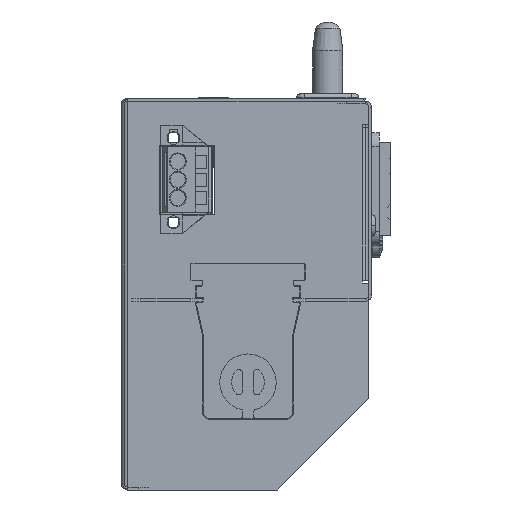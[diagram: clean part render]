
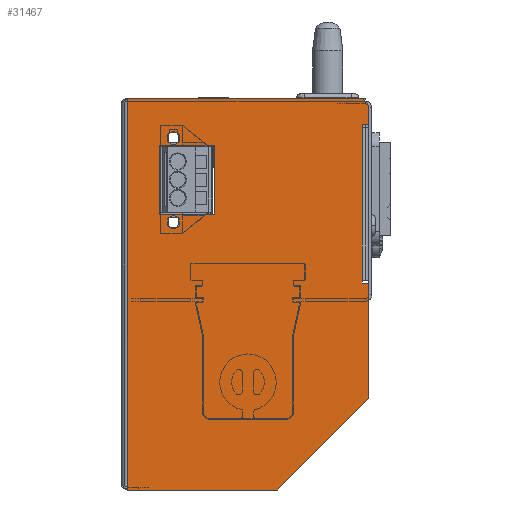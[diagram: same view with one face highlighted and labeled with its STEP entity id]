
A CAD part, left-side view. The second image highlights one B-rep face of the part: STEP entity #31467.
In plain terms, the highlighted planar face has unit normal (-1, 0, 0).
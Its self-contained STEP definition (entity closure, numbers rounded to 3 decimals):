
#29037=CARTESIAN_POINT('',(-305.55,33.,-51.8));
#29055=CARTESIAN_POINT('',(-305.55,33.,55.8));
#29057=DIRECTION('',(0.,0.,-1.));
#29058=VECTOR('',#29057,107.6);
#29059=CARTESIAN_POINT('',(-305.55,33.,55.8));
#29060=LINE('',#29059,#29058);
#29230=CARTESIAN_POINT('',(-305.55,-30.2,52.8));
#29231=DIRECTION('',(1.,0.,0.));
#29232=DIRECTION('',(0.,0.,1.));
#29233=AXIS2_PLACEMENT_3D('',#29230,#29231,#29232);
#29235=DIRECTION('',(0.,0.,-1.));
#29236=VECTOR('',#29235,4.2);
#29237=CARTESIAN_POINT('',(-305.55,-33.2,52.8));
#29238=LINE('',#29237,#29236);
#29239=DIRECTION('',(0.,1.,0.));
#29240=VECTOR('',#29239,1.8);
#29241=CARTESIAN_POINT('',(-305.55,-33.2,48.6));
#29242=LINE('',#29241,#29240);
#29243=DIRECTION('',(0.,0.,-1.));
#29244=VECTOR('',#29243,0.8);
#29245=CARTESIAN_POINT('',(-305.55,-31.4,5.8));
#29246=LINE('',#29245,#29244);
#29247=DIRECTION('',(0.,0.,-1.));
#29248=VECTOR('',#29247,31.8);
#29249=CARTESIAN_POINT('',(-305.55,-33.2,5.));
#29250=LINE('',#29249,#29248);
#29251=DIRECTION('',(0.,0.707,-0.707));
#29252=VECTOR('',#29251,35.355);
#29253=CARTESIAN_POINT('',(-305.55,-33.2,-26.8));
#29254=LINE('',#29253,#29252);
#29255=DIRECTION('',(0.,1.,0.));
#29256=VECTOR('',#29255,41.2);
#29257=CARTESIAN_POINT('',(-305.55,-8.2,-51.8));
#29258=LINE('',#29257,#29256);
#29259=DIRECTION('',(0.,-1.,0.));
#29260=VECTOR('',#29259,63.2);
#29261=CARTESIAN_POINT('',(-305.55,33.,55.8));
#29262=LINE('',#29261,#29260);
#29263=DIRECTION('',(0.,-1.,0.));
#29264=VECTOR('',#29263,15.);
#29265=CARTESIAN_POINT('',(-305.55,24.3,23.8));
#29266=LINE('',#29265,#29264);
#29267=DIRECTION('',(0.,0.,1.));
#29268=VECTOR('',#29267,19.);
#29269=CARTESIAN_POINT('',(-305.55,9.3,23.8));
#29270=LINE('',#29269,#29268);
#29271=DIRECTION('',(0.,1.,0.));
#29272=VECTOR('',#29271,15.);
#29273=CARTESIAN_POINT('',(-305.55,9.3,42.8));
#29274=LINE('',#29273,#29272);
#29275=DIRECTION('',(0.,0.,-1.));
#29276=VECTOR('',#29275,19.);
#29277=CARTESIAN_POINT('',(-305.55,24.3,42.8));
#29278=LINE('',#29277,#29276);
#29279=CARTESIAN_POINT('',(-305.55,20.45,21.755));
#29280=DIRECTION('',(-1.,0.,0.));
#29281=DIRECTION('',(0.,-1.,0.));
#29282=AXIS2_PLACEMENT_3D('',#29279,#29280,#29281);
#29284=CARTESIAN_POINT('',(-305.55,20.45,21.755));
#29285=DIRECTION('',(-1.,0.,0.));
#29286=DIRECTION('',(0.,1.,0.));
#29287=AXIS2_PLACEMENT_3D('',#29284,#29285,#29286);
#29289=CARTESIAN_POINT('',(-305.55,20.45,44.845));
#29290=DIRECTION('',(-1.,0.,0.));
#29291=DIRECTION('',(0.,-1.,0.));
#29292=AXIS2_PLACEMENT_3D('',#29289,#29290,#29291);
#29294=CARTESIAN_POINT('',(-305.55,20.45,44.845));
#29295=DIRECTION('',(-1.,0.,0.));
#29296=DIRECTION('',(0.,1.,0.));
#29297=AXIS2_PLACEMENT_3D('',#29294,#29295,#29296);
#29299=DIRECTION('',(0.,0.,1.));
#29300=VECTOR('',#29299,0.8);
#29301=CARTESIAN_POINT('',(-305.55,-31.4,47.8));
#29302=LINE('',#29301,#29300);
#29355=DIRECTION('',(0.,1.,0.));
#29356=VECTOR('',#29355,1.8);
#29357=CARTESIAN_POINT('',(-305.55,-33.2,5.));
#29358=LINE('',#29357,#29356);
#29375=DIRECTION('',(0.,0.,1.));
#29376=VECTOR('',#29375,42.);
#29377=CARTESIAN_POINT('',(-305.55,-31.4,5.8));
#29378=LINE('',#29377,#29376);
#30225=VERTEX_POINT('',#29037);
#30228=VERTEX_POINT('',#29055);
#30284=CARTESIAN_POINT('',(-305.55,-33.2,52.8));
#30285=VERTEX_POINT('',#30284);
#30286=CARTESIAN_POINT('',(-305.55,-30.2,55.8));
#30287=VERTEX_POINT('',#30286);
#30288=CARTESIAN_POINT('',(-305.55,-33.2,48.6));
#30289=VERTEX_POINT('',#30288);
#30290=CARTESIAN_POINT('',(-305.55,-31.4,48.6));
#30291=VERTEX_POINT('',#30290);
#30292=CARTESIAN_POINT('',(-305.55,-31.4,47.8));
#30293=VERTEX_POINT('',#30292);
#30294=CARTESIAN_POINT('',(-305.55,-31.4,5.8));
#30295=VERTEX_POINT('',#30294);
#30296=CARTESIAN_POINT('',(-305.55,-31.4,5.));
#30297=VERTEX_POINT('',#30296);
#30298=CARTESIAN_POINT('',(-305.55,-33.2,5.));
#30299=VERTEX_POINT('',#30298);
#30300=CARTESIAN_POINT('',(-305.55,-33.2,-26.8));
#30301=VERTEX_POINT('',#30300);
#30302=CARTESIAN_POINT('',(-305.55,-8.2,-51.8));
#30303=VERTEX_POINT('',#30302);
#30304=CARTESIAN_POINT('',(-305.55,24.3,23.8));
#30305=CARTESIAN_POINT('',(-305.55,9.3,23.8));
#30306=VERTEX_POINT('',#30304);
#30307=VERTEX_POINT('',#30305);
#30308=CARTESIAN_POINT('',(-305.55,9.3,42.8));
#30309=VERTEX_POINT('',#30308);
#30310=CARTESIAN_POINT('',(-305.55,24.3,42.8));
#30311=VERTEX_POINT('',#30310);
#30312=CARTESIAN_POINT('',(-305.55,18.7,21.755));
#30313=CARTESIAN_POINT('',(-305.55,22.2,21.755));
#30314=VERTEX_POINT('',#30312);
#30315=VERTEX_POINT('',#30313);
#30316=CARTESIAN_POINT('',(-305.55,18.7,44.845));
#30317=CARTESIAN_POINT('',(-305.55,22.2,44.845));
#30318=VERTEX_POINT('',#30316);
#30319=VERTEX_POINT('',#30317);
#31418=CARTESIAN_POINT('',(-305.55,34.8,29.29));
#31419=DIRECTION('',(1.,0.,0.));
#31420=DIRECTION('',(0.,0.,1.));
#31421=AXIS2_PLACEMENT_3D('',#31418,#31419,#31420);
#31422=PLANE('',#31421);
#31423=ORIENTED_EDGE('',*,*,#31383,.T.);
#31424=ORIENTED_EDGE('',*,*,#31399,.T.);
#31425=ORIENTED_EDGE('',*,*,#31409,.T.);
#31427=ORIENTED_EDGE('',*,*,#31426,.F.);
#31429=ORIENTED_EDGE('',*,*,#31428,.F.);
#31431=ORIENTED_EDGE('',*,*,#31430,.T.);
#31433=ORIENTED_EDGE('',*,*,#31432,.F.);
#31435=ORIENTED_EDGE('',*,*,#31434,.T.);
#31437=ORIENTED_EDGE('',*,*,#31436,.T.);
#31439=ORIENTED_EDGE('',*,*,#31438,.T.);
#31440=ORIENTED_EDGE('',*,*,#31143,.F.);
#31442=ORIENTED_EDGE('',*,*,#31441,.T.);
#31443=EDGE_LOOP('',(#31423,#31424,#31425,#31427,#31429,#31431,#31433,#31435,
#31437,#31439,#31440,#31442));
#31444=FACE_OUTER_BOUND('',#31443,.F.);
#31446=ORIENTED_EDGE('',*,*,#31445,.T.);
#31448=ORIENTED_EDGE('',*,*,#31447,.T.);
#31450=ORIENTED_EDGE('',*,*,#31449,.T.);
#31452=ORIENTED_EDGE('',*,*,#31451,.T.);
#31453=EDGE_LOOP('',(#31446,#31448,#31450,#31452));
#31454=FACE_BOUND('',#31453,.F.);
#31456=ORIENTED_EDGE('',*,*,#31455,.T.);
#31458=ORIENTED_EDGE('',*,*,#31457,.T.);
#31459=EDGE_LOOP('',(#31456,#31458));
#31460=FACE_BOUND('',#31459,.F.);
#31462=ORIENTED_EDGE('',*,*,#31461,.T.);
#31464=ORIENTED_EDGE('',*,*,#31463,.T.);
#31465=EDGE_LOOP('',(#31462,#31464));
#31466=FACE_BOUND('',#31465,.F.);
#29234=CIRCLE('',#29233,3.);
#29283=CIRCLE('',#29282,1.75);
#29288=CIRCLE('',#29287,1.75);
#29293=CIRCLE('',#29292,1.75);
#29298=CIRCLE('',#29297,1.75);
#31143=EDGE_CURVE('',#30228,#30225,#29060,.T.);
#31383=EDGE_CURVE('',#30287,#30285,#29234,.T.);
#31399=EDGE_CURVE('',#30285,#30289,#29238,.T.);
#31409=EDGE_CURVE('',#30289,#30291,#29242,.T.);
#31426=EDGE_CURVE('',#30293,#30291,#29302,.T.);
#31428=EDGE_CURVE('',#30295,#30293,#29378,.T.);
#31430=EDGE_CURVE('',#30295,#30297,#29246,.T.);
#31432=EDGE_CURVE('',#30299,#30297,#29358,.T.);
#31434=EDGE_CURVE('',#30299,#30301,#29250,.T.);
#31436=EDGE_CURVE('',#30301,#30303,#29254,.T.);
#31438=EDGE_CURVE('',#30303,#30225,#29258,.T.);
#31441=EDGE_CURVE('',#30228,#30287,#29262,.T.);
#31445=EDGE_CURVE('',#30306,#30307,#29266,.T.);
#31447=EDGE_CURVE('',#30307,#30309,#29270,.T.);
#31449=EDGE_CURVE('',#30309,#30311,#29274,.T.);
#31451=EDGE_CURVE('',#30311,#30306,#29278,.T.);
#31455=EDGE_CURVE('',#30314,#30315,#29283,.T.);
#31457=EDGE_CURVE('',#30315,#30314,#29288,.T.);
#31461=EDGE_CURVE('',#30318,#30319,#29293,.T.);
#31463=EDGE_CURVE('',#30319,#30318,#29298,.T.);
#31467=ADVANCED_FACE('',(#31444,#31454,#31460,#31466),#31422,.F.);
